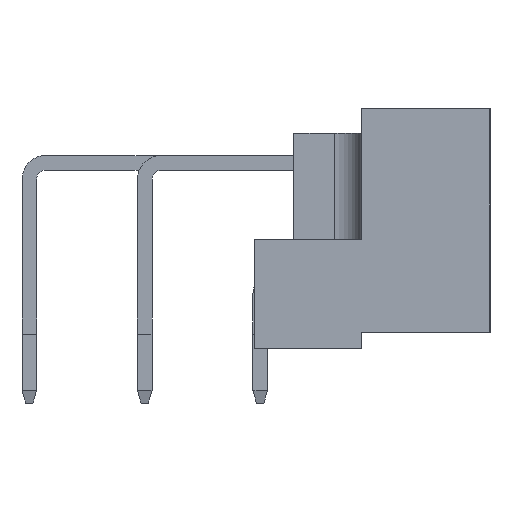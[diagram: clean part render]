
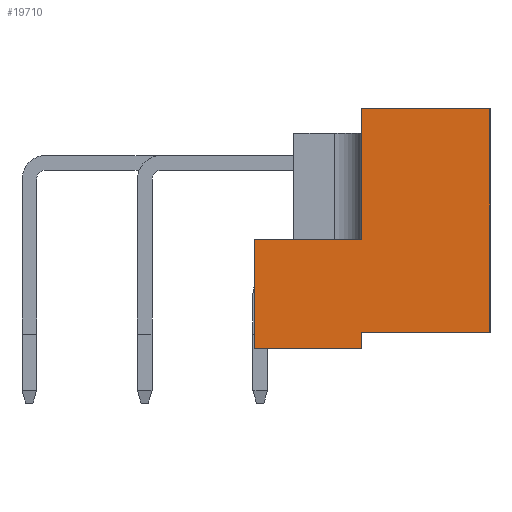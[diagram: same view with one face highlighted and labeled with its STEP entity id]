
A CAD part, left-side view. The second image highlights one B-rep face of the part: STEP entity #19710.
In plain terms, the highlighted planar face has unit normal (-1, 0, 0).
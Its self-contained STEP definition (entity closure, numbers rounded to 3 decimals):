
#5=DIRECTION('',(0.,0.,1.));
#6=VECTOR('',#5,6.);
#7=CARTESIAN_POINT('',(-23.175,5.9,-7.05));
#8=LINE('',#7,#6);
#212=DIRECTION('',(0.,1.,0.));
#213=VECTOR('',#212,5.9);
#214=CARTESIAN_POINT('',(-23.175,0.,-7.05));
#215=LINE('',#214,#213);
#767=DIRECTION('',(0.,0.,1.));
#768=VECTOR('',#767,7.2);
#769=CARTESIAN_POINT('',(-23.175,0.,-1.05));
#770=LINE('',#769,#768);
#10065=DIRECTION('',(0.,0.,-1.));
#10066=VECTOR('',#10065,12.3);
#10067=CARTESIAN_POINT('',(-23.175,-7.05,6.15));
#10068=LINE('',#10067,#10066);
#10211=DIRECTION('',(0.,1.,0.));
#10212=VECTOR('',#10211,7.05);
#10213=CARTESIAN_POINT('',(-23.175,-7.05,-6.15));
#10214=LINE('',#10213,#10212);
#13631=DIRECTION('',(0.,0.,-1.));
#13632=VECTOR('',#13631,0.9);
#13633=CARTESIAN_POINT('',(-23.175,0.,-6.15));
#13634=LINE('',#13633,#13632);
#13687=DIRECTION('',(0.,-1.,0.));
#13688=VECTOR('',#13687,7.05);
#13689=CARTESIAN_POINT('',(-23.175,0.,6.15));
#13690=LINE('',#13689,#13688);
#15346=DIRECTION('',(0.,-1.,0.));
#15347=VECTOR('',#15346,5.9);
#15348=CARTESIAN_POINT('',(-23.175,5.9,-1.05));
#15349=LINE('',#15348,#15347);
#15399=CARTESIAN_POINT('',(-23.175,5.9,-1.05));
#15400=CARTESIAN_POINT('',(-23.175,0.,-1.05));
#15401=VERTEX_POINT('',#15399);
#15402=VERTEX_POINT('',#15400);
#15403=CARTESIAN_POINT('',(-23.175,0.,6.15));
#15404=VERTEX_POINT('',#15403);
#15405=CARTESIAN_POINT('',(-23.175,-7.05,6.15));
#15406=VERTEX_POINT('',#15405);
#15407=CARTESIAN_POINT('',(-23.175,-7.05,-6.15));
#15408=VERTEX_POINT('',#15407);
#15409=CARTESIAN_POINT('',(-23.175,0.,-6.15));
#15410=VERTEX_POINT('',#15409);
#15411=CARTESIAN_POINT('',(-23.175,0.,-7.05));
#15412=VERTEX_POINT('',#15411);
#15413=CARTESIAN_POINT('',(-23.175,5.9,-7.05));
#15414=VERTEX_POINT('',#15413);
#19687=CARTESIAN_POINT('',(-23.175,0.,0.));
#19688=DIRECTION('',(1.,0.,0.));
#19689=DIRECTION('',(0.,0.,1.));
#19690=AXIS2_PLACEMENT_3D('',#19687,#19688,#19689);
#19691=PLANE('',#19690);
#19693=ORIENTED_EDGE('',*,*,#19692,.T.);
#19695=ORIENTED_EDGE('',*,*,#19694,.T.);
#19697=ORIENTED_EDGE('',*,*,#19696,.T.);
#19699=ORIENTED_EDGE('',*,*,#19698,.T.);
#19701=ORIENTED_EDGE('',*,*,#19700,.T.);
#19703=ORIENTED_EDGE('',*,*,#19702,.T.);
#19705=ORIENTED_EDGE('',*,*,#19704,.T.);
#19707=ORIENTED_EDGE('',*,*,#19706,.T.);
#19708=EDGE_LOOP('',(#19693,#19695,#19697,#19699,#19701,#19703,#19705,#19707));
#19709=FACE_OUTER_BOUND('',#19708,.F.);
#19710=ADVANCED_FACE('',(#19709),#19691,.F.);
#19692=EDGE_CURVE('',#15414,#15401,#8,.T.);
#19694=EDGE_CURVE('',#15401,#15402,#15349,.T.);
#19696=EDGE_CURVE('',#15402,#15404,#770,.T.);
#19698=EDGE_CURVE('',#15404,#15406,#13690,.T.);
#19700=EDGE_CURVE('',#15406,#15408,#10068,.T.);
#19702=EDGE_CURVE('',#15408,#15410,#10214,.T.);
#19704=EDGE_CURVE('',#15410,#15412,#13634,.T.);
#19706=EDGE_CURVE('',#15412,#15414,#215,.T.);
